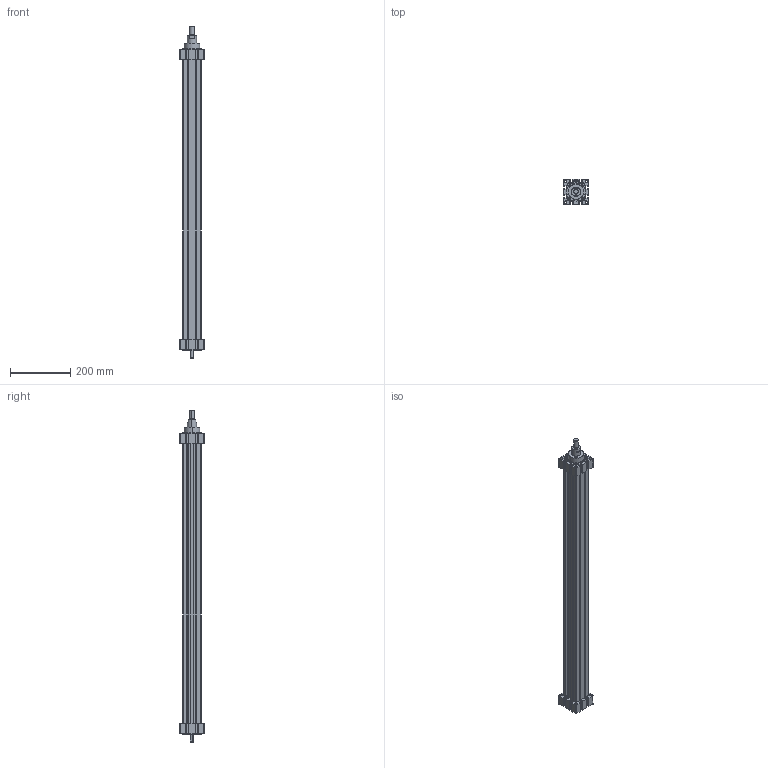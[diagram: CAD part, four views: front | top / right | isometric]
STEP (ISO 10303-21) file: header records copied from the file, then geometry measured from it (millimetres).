
FILE_DESCRIPTION (( 'STEP AP214' ), '1' );
FILE_NAME ('EHT(K)60.STEP', '2022-06-28T09:10:24', ( '' ), ( '' ), 'SwSTEP 2.0', 'SolidWorks 2020', '' );
FILE_SCHEMA (( 'AUTOMOTIVE_DESIGN' ));
Length unit declared in the file: millimetre
Products named in the file (5): bearing block 02^EHT(K)60_standard; piston rod^EHT(K)60; profile^EHT(K)60; EHT(K)60; bearing block 01^EHT(K)60_standard
Assembly tree (4 placements, depth 2):
  EHT(K)60
    profile^EHT(K)60
    piston rod^EHT(K)60
    bearing block 01^EHT(K)60_standard
    bearing block 02^EHT(K)60_standard
Bounding box: 82 x 82 x 1104.5 mm (x, y, z)
Volume: 2621268.6 mm3; surface area: 662884.9 mm2
Topology: 5 solids, 5 shells, 647 faces, 1866 edges, 1234 vertices
Faces by surface type: plane 495, cylinder 120, cone 28, torus 4
Entity records: 21743 total; most frequent: CARTESIAN_POINT 3864, ORIENTED_EDGE 3732, DIRECTION 3460, EDGE_CURVE 1866, LINE 1536, VECTOR 1536, VERTEX_POINT 1234, AXIS2_PLACEMENT_3D 962
